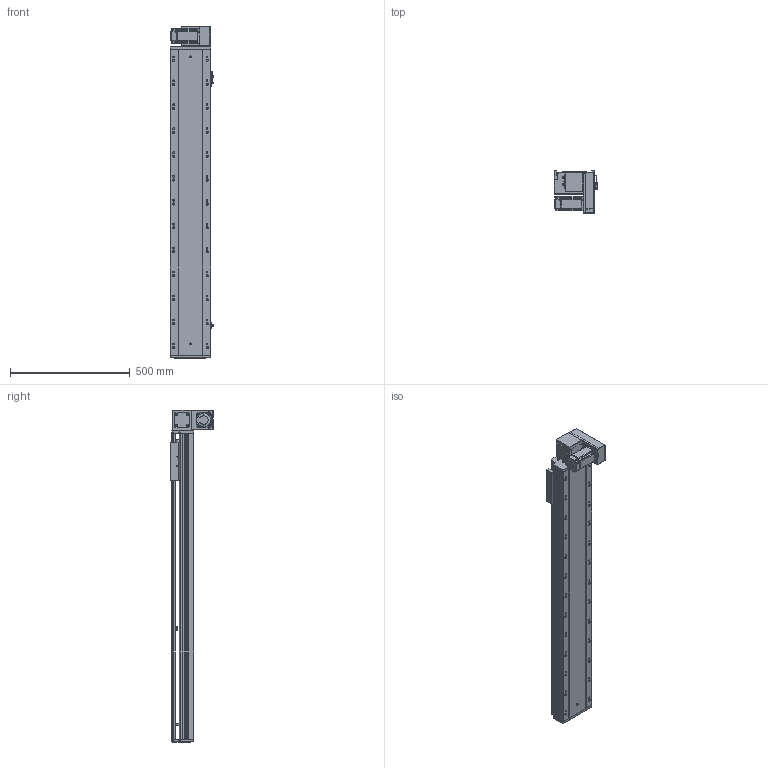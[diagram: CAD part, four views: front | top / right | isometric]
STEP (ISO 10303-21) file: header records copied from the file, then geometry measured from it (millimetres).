
FILE_DESCRIPTION (( 'STEP AP203' ), '1' );
FILE_NAME ('RY170-T-300-DR-P400W.SLDASM_1000.step', '2021-03-01T08:22:14', ( '盈信电脑' ), ( '东莞市道滘镇水果街19号' ), 'SwSTEP 2.0', 'SolidWorks 2012', '' );
FILE_SCHEMA (( 'CONFIG_CONTROL_DESIGN' ));
Products named in the file (19): 15; RY170-T-300-DR-P400W.SLDASM_1000; RY170-T-呴雄粣揤踡啣; 滅袉蝶18-10; RY170-T蹟翐M4; RY120-T主同步轮轴承压盖; RY170-T肮祭湍揤踡輸2; RY170-T肮祭謫裔啣; RY170-T肮祭湍揤踡輸1; RY170同步轮电机安装板(400W); RY170肮祭謫萇儂欶; RY170翋肮祭謫釱; RY170肮祭謫ヶ裔啣; RY170-T-300肮祭謫倰第裔啣-DR_1000; 覜茼ん672; RY170外置感应片(200共用）; RY170綴裔啣; RY170肮祭湍臏賑輸; RY170-T-300肮祭謫倰第菁釱-DR_1000
Assembly tree (23 placements, depth 2):
  RY170-T-300-DR-P400W.SLDASM_1000
    RY170-T-300肮祭謫倰第菁釱-DR_1000
    RY170肮祭湍臏賑輸
    RY170-T-300肮祭謫倰第裔啣-DR_1000
    RY170綴裔啣
    覜茼ん672  x3
    RY170外置感应片(200共用）
    RY170肮祭謫ヶ裔啣
    RY170翋肮祭謫釱
    RY170同步轮电机安装板(400W)
    RY170肮祭謫萇儂欶
    RY170-T肮祭湍揤踡輸1  x2
    RY170-T肮祭湍揤踡輸2  x2
    RY120-T主同步轮轴承压盖
    RY170-T肮祭謫裔啣
    RY170-T蹟翐M4
    滅袉蝶18-10  x2
    RY170-T-呴雄粣揤踡啣
    15
Bounding box: 183.7 x 178 x 1388 mm (x, y, z)
Volume: 6887830.9 mm3; surface area: 2349880.7 mm2
Topology: 23 solids, 23 shells, 2922 faces, 8266 edges, 5319 vertices
Faces by surface type: cylinder 1376, plane 1276, cone 240, bspline 30
Entity records: 90317 total; most frequent: CARTESIAN_POINT 21431, ORIENTED_EDGE 14232, DIRECTION 13648, EDGE_CURVE 7116, AXIS2_PLACEMENT_3D 4826, VERTEX_POINT 4675, VECTOR 3996, LINE 3996
